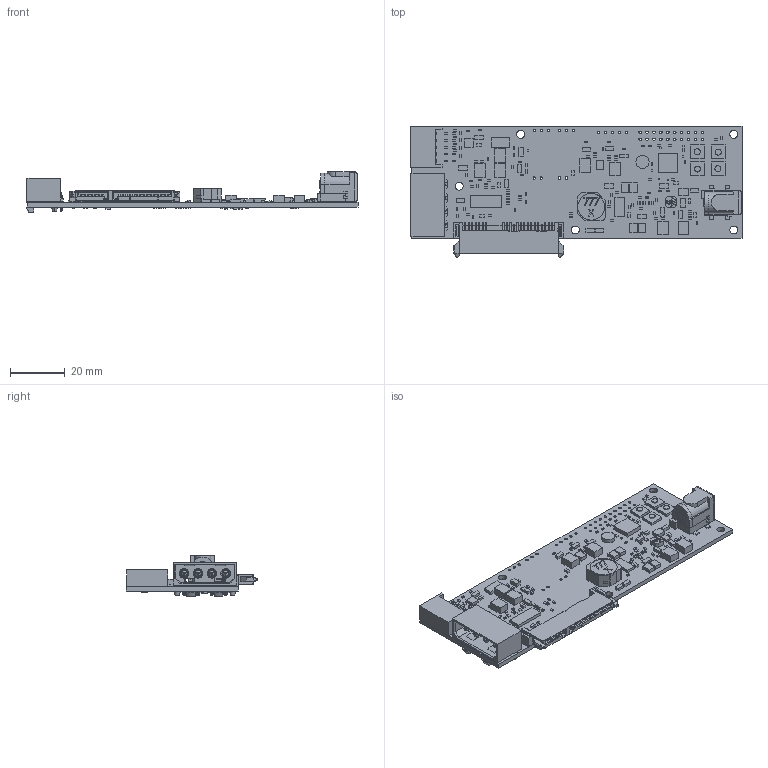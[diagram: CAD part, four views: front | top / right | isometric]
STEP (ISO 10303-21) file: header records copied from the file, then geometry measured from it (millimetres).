
FILE_DESCRIPTION(('Open CASCADE Model'),'2;1');
FILE_NAME('Open CASCADE Shape Model','2014-03-27T23:30:04',('Author'),( 'Open CASCADE'),'Open CASCADE STEP processor 6.2','Open CASCADE 6.2' ,'Unknown');
FILE_SCHEMA(('AUTOMOTIVE_DESIGN { 1 0 10303 214 1 1 1 1 }'));
Length unit declared in the file: millimetre
Products named in the file (258): PCB; Boardsenoko_dvt1a; C100senoko_dvt1a; 1055124624; Extruded; C101senoko_dvt1a; 1055123472; C102senoko_dvt1a; 1344663296; C103senoko_dvt1a; 1344663040; C104senoko_dvt1a; C108senoko_dvt1a; 1345016344; Cylinder; C109senoko_dvt1a; C110senoko_dvt1a; C111senoko_dvt1a; C112senoko_dvt1a; C113senoko_dvt1a; 1055124880; C114senoko_dvt1a; C115senoko_dvt1a; C116senoko_dvt1a; C200senoko_dvt1a; C201senoko_dvt1a; 1055123728; C202senoko_dvt1a; 1055124240; C203senoko_dvt1a; C204senoko_dvt1a; C205senoko_dvt1a; C206senoko_dvt1a; C207senoko_dvt1a; C208senoko_dvt1a; C209senoko_dvt1a; C210senoko_dvt1a; C211senoko_dvt1a; C212senoko_dvt1a; C213senoko_dvt1a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
Assembly tree (419 placements, depth 4):
  PCB
    Boardsenoko_dvt1a
    C100senoko_dvt1a
      1055124624
        Extruded
    C101senoko_dvt1a
      1055123472
        Extruded
    C102senoko_dvt1a
      1344663296
        Extruded
    C103senoko_dvt1a
      1344663040
        Extruded
    C104senoko_dvt1a
      1344663296
        Extruded
    C108senoko_dvt1a
      1345016344
        Cylinder
    C109senoko_dvt1a
      1344663040
        Extruded
    C110senoko_dvt1a
      1055124624
        Extruded
    C111senoko_dvt1a
      1055124624
        Extruded
    C112senoko_dvt1a
      1055124624
        Extruded
    C113senoko_dvt1a
      1055124880
        Extruded
    C114senoko_dvt1a
      1344663296
        Extruded
    C115senoko_dvt1a
      1344663296
        Extruded
    C116senoko_dvt1a
      1344663040
        Extruded
    C200senoko_dvt1a
      1055124624
        Extruded
    C201senoko_dvt1a
      1055123728
        Extruded
    C202senoko_dvt1a
      1055124240
        Extruded
    C203senoko_dvt1a
      1055124240
        Extruded
    C204senoko_dvt1a
      1055124624
        Extruded
    C205senoko_dvt1a
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Bounding box: 121.51 x 48.21 x 14.72 mm (x, y, z)
Volume: 13865.1 mm3; surface area: 20681.5 mm2
Topology: 202 solids, 202 shells, 3564 faces, 9601 edges, 6533 vertices
Faces by surface type: plane 2990, cylinder 483, cone 62, sphere 14, bspline 13, extrusion 2
Full cylindrical faces by diameter (mm): 0.9 x40, 1.52 x4, 1.6 x3, 1.8 x1, 2.2 x4, 2.54 x2, 2.9 x5, 3.99 x2, 4.8 x1
Entity records: 203120 total; most frequent: CARTESIAN_POINT 49993, DIRECTION 26762, VECTOR 17943, LINE 17941, ORIENTED_EDGE 15018, PCURVE 15018, DEFINITIONAL_REPRESENTATION 15018, EDGE_CURVE 7509
